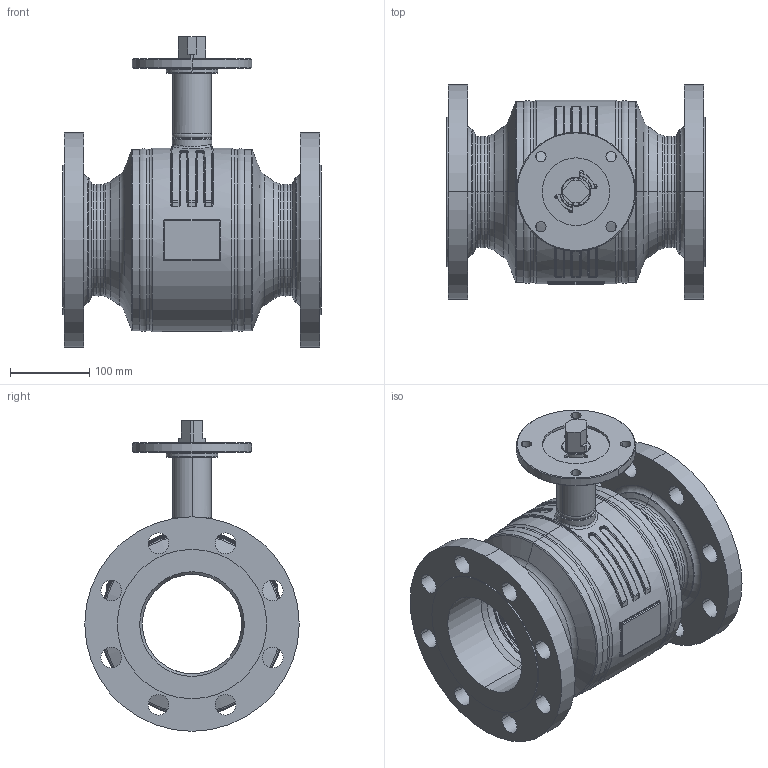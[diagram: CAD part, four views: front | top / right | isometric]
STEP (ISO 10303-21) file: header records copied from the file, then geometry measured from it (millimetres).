
FILE_DESCRIPTION((''),'2;1');
FILE_NAME('KHMO-F-V-H-125P040-VI_SW0001','2025-04-22T16:33:03',('jeitlers'),('KLINGER'),'CREO PARAMETRIC BY PTC INC, 2023014','CREO PARAMETRIC BY PTC INC, 2023014','');
FILE_SCHEMA(('CONFIG_CONTROL_DESIGN'));
Length unit declared in the file: millimetre
Products named in the file (1): KHMO-F-V-H-125P040-VI_SW0001
Bounding box: 325 x 270 x 391 mm (x, y, z)
Volume: 5223853.4 mm3; surface area: 1067055.4 mm2
Topology: 2 solids, 2 shells, 611 faces, 1457 edges, 864 vertices
Faces by surface type: cylinder 226, torus 128, plane 111, cone 86, bspline 52, sphere 8
Entity records: 30389 total; most frequent: CARTESIAN_POINT 16024, DIRECTION 3235, ORIENTED_EDGE 2898, EDGE_CURVE 1449, AXIS2_PLACEMENT_3D 1379, VERTEX_POINT 864, CIRCLE 820, EDGE_LOOP 693
